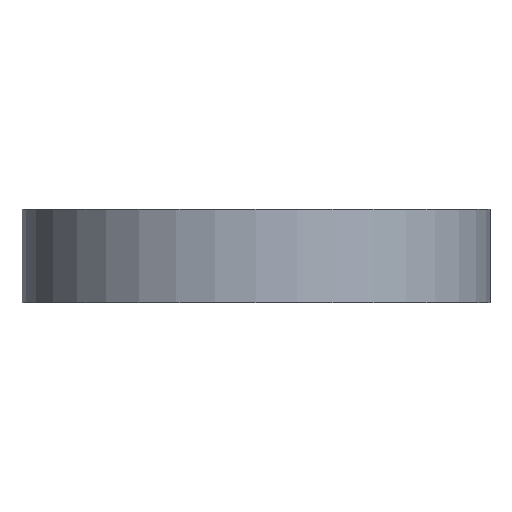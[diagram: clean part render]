
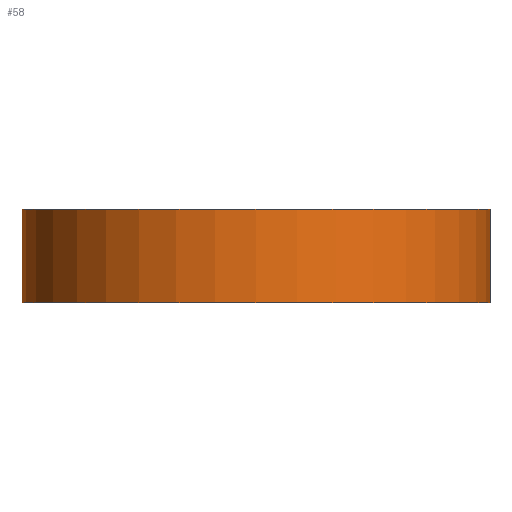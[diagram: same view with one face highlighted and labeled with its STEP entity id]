
A CAD part, front view. The second image highlights one B-rep face of the part: STEP entity #58.
In plain terms, the highlighted cylindrical face has radius 100 mm (diameter 200 mm), a full revolution.
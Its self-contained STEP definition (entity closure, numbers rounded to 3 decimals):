
#58 = ADVANCED_FACE( '', ( #125, #126 ), #127, .T. );
#125 = FACE_OUTER_BOUND( '', #208, .T. );
#126 = FACE_OUTER_BOUND( '', #209, .T. );
#127 = CYLINDRICAL_SURFACE( '', #210, 100. );
#208 = EDGE_LOOP( '', ( #303 ) );
#209 = EDGE_LOOP( '', ( #304 ) );
#210 = AXIS2_PLACEMENT_3D( '', #305, #306, #307 );
#303 = ORIENTED_EDGE( '', *, *, #382, .T. );
#304 = ORIENTED_EDGE( '', *, *, #383, .F. );
#305 = CARTESIAN_POINT( '', ( 0., 0., 40. ) );
#306 = DIRECTION( '', ( 0., 0., 1. ) );
#307 = DIRECTION( '', ( -1., 0., 0. ) );
#382 = EDGE_CURVE( '', #436, #436, #437, .T. );
#383 = EDGE_CURVE( '', #438, #438, #439, .T. );
#436 = VERTEX_POINT( '', #496 );
#437 = CIRCLE( '', #497, 100. );
#438 = VERTEX_POINT( '', #498 );
#439 = CIRCLE( '', #499, 100. );
#496 = CARTESIAN_POINT( '', ( 100., 0., 40. ) );
#497 = AXIS2_PLACEMENT_3D( '', #562, #563, #564 );
#498 = CARTESIAN_POINT( '', ( 100., 0., 0. ) );
#499 = AXIS2_PLACEMENT_3D( '', #565, #566, #567 );
#562 = CARTESIAN_POINT( '', ( 0., 0., 40. ) );
#563 = DIRECTION( '', ( 0., 0., -1. ) );
#564 = DIRECTION( '', ( 1., 0., 0. ) );
#565 = CARTESIAN_POINT( '', ( 0., 0., 0. ) );
#566 = DIRECTION( '', ( 0., 0., -1. ) );
#567 = DIRECTION( '', ( 1., 0., 0. ) );
